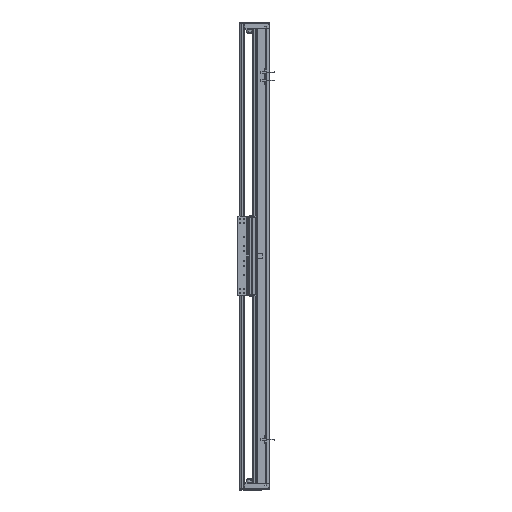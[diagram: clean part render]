
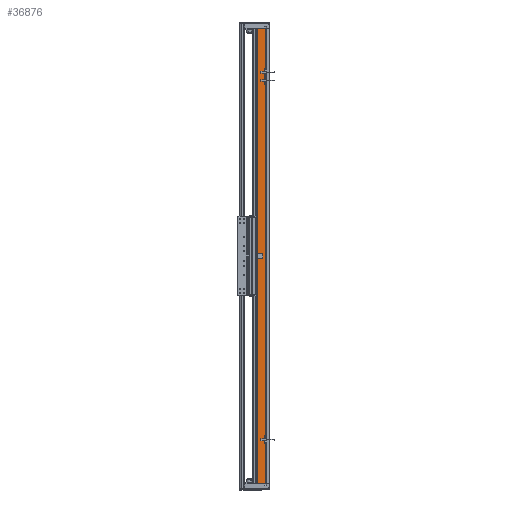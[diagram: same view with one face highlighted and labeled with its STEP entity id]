
A CAD part, left-side view. The second image highlights one B-rep face of the part: STEP entity #36876.
In plain terms, the highlighted planar face has unit normal (-1, 0, 0).
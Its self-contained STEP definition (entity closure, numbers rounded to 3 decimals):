
#4174 = DIRECTION ( 'NONE',  ( 0., -1., 0. ) ) ;
#10714 = AXIS2_PLACEMENT_3D ( 'NONE', #119661, #131815, #26931 ) ;
#14753 = PLANE ( 'NONE',  #10714 ) ;
#22746 = VERTEX_POINT ( 'NONE', #58630 ) ;
#23764 = CARTESIAN_POINT ( 'NONE',  ( -97.5, 36.95, -720. ) ) ;
#26515 = VERTEX_POINT ( 'NONE', #49968 ) ;
#26931 = DIRECTION ( 'NONE',  ( 0., 1., 0. ) ) ;
#36876 = ADVANCED_FACE ( 'NONE', ( #85439 ), #14753, .F. ) ;
#38881 = CARTESIAN_POINT ( 'NONE',  ( -97.5, 36.95, 720. ) ) ;
#39803 = LINE ( 'NONE', #46893, #145409 ) ;
#42984 = EDGE_CURVE ( 'NONE', #106180, #22746, #39803, .T. ) ;
#46893 = CARTESIAN_POINT ( 'NONE',  ( -97.5, 36.95, 720. ) ) ;
#48176 = DIRECTION ( 'NONE',  ( 0., 0., -1. ) ) ;
#49537 = DIRECTION ( 'NONE',  ( 0., 0., -1. ) ) ;
#49968 = CARTESIAN_POINT ( 'NONE',  ( -97.5, 14.45, -720. ) ) ;
#58630 = CARTESIAN_POINT ( 'NONE',  ( -97.5, 14.45, 720. ) ) ;
#67737 = EDGE_LOOP ( 'NONE', ( #104018, #130382, #85269, #80969 ) ) ;
#68817 = VECTOR ( 'NONE', #48176, 1000. ) ;
#75579 = CARTESIAN_POINT ( 'NONE',  ( -97.5, 36.95, -720. ) ) ;
#80969 = ORIENTED_EDGE ( 'NONE', *, *, #107879, .T. ) ;
#85269 = ORIENTED_EDGE ( 'NONE', *, *, #42984, .F. ) ;
#85439 = FACE_OUTER_BOUND ( 'NONE', #67737, .T. ) ;
#85990 = LINE ( 'NONE', #38881, #89850 ) ;
#87636 = CARTESIAN_POINT ( 'NONE',  ( -97.5, 36.95, 720. ) ) ;
#89850 = VECTOR ( 'NONE', #49537, 1000. ) ;
#92469 = DIRECTION ( 'NONE',  ( 0., -1., 0. ) ) ;
#104018 = ORIENTED_EDGE ( 'NONE', *, *, #142606, .T. ) ;
#106180 = VERTEX_POINT ( 'NONE', #87636 ) ;
#107879 = EDGE_CURVE ( 'NONE', #106180, #125250, #85990, .T. ) ;
#111205 = EDGE_CURVE ( 'NONE', #22746, #26515, #119584, .T. ) ;
#119433 = VECTOR ( 'NONE', #4174, 1000. ) ;
#119584 = LINE ( 'NONE', #127993, #68817 ) ;
#119661 = CARTESIAN_POINT ( 'NONE',  ( -97.5, 36.95, 720. ) ) ;
#125250 = VERTEX_POINT ( 'NONE', #23764 ) ;
#127993 = CARTESIAN_POINT ( 'NONE',  ( -97.5, 14.45, 720. ) ) ;
#130382 = ORIENTED_EDGE ( 'NONE', *, *, #111205, .F. ) ;
#131815 = DIRECTION ( 'NONE',  ( 1., 0., 0. ) ) ;
#131849 = LINE ( 'NONE', #75579, #119433 ) ;
#142606 = EDGE_CURVE ( 'NONE', #125250, #26515, #131849, .T. ) ;
#145409 = VECTOR ( 'NONE', #92469, 1000. ) ;
